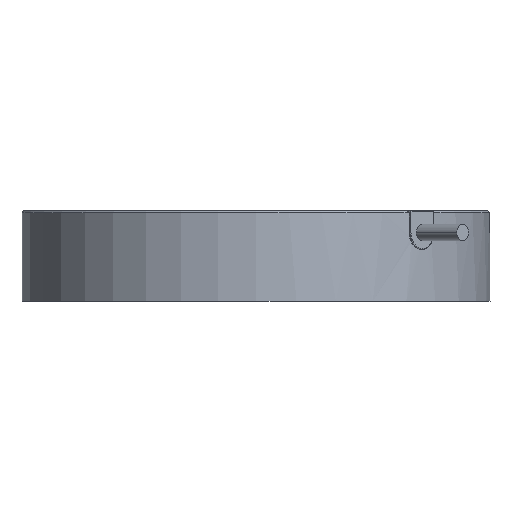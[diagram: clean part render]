
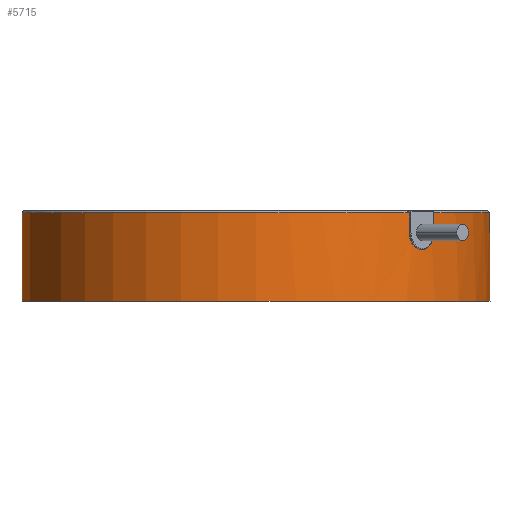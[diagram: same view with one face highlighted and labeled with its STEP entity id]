
A CAD part, front view. The second image highlights one B-rep face of the part: STEP entity #5715.
In plain terms, the highlighted cylindrical face has radius 70 mm (diameter 140 mm), a partial arc.
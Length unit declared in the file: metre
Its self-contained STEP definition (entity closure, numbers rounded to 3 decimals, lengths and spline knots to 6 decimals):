
#6=DIRECTION('',(0.,0.,-1.));
#7=VECTOR('',#6,0.005898);
#8=CARTESIAN_POINT('',(0.045835,-0.052906,0.002598));
#9=LINE('',#8,#7);
#10=DIRECTION('',(0.,0.,1.));
#11=VECTOR('',#10,0.005899);
#12=CARTESIAN_POINT('',(0.052907,-0.045836,-0.0033));
#13=LINE('',#12,#11);
#14=DIRECTION('',(0.,0.,-1.));
#15=VECTOR('',#14,0.001401);
#16=CARTESIAN_POINT('',(-0.036699,0.059609,
0.002601));
#17=LINE('',#16,#15);
#18=DIRECTION('',(0.,0.,-1.));
#19=VECTOR('',#18,0.025);
#20=CARTESIAN_POINT('',(-0.036699,0.059609,0.0012));
#21=LINE('',#20,#19);
#22=DIRECTION('',(0.,0.,1.));
#23=VECTOR('',#22,0.025);
#24=CARTESIAN_POINT('',(-0.059609,0.036699,-0.0238));
#25=LINE('',#24,#23);
#26=DIRECTION('',(-0.001,0.001,1.));
#27=VECTOR('',#26,0.0014);
#28=CARTESIAN_POINT('',(-0.059609,0.036699,0.0012));
#29=LINE('',#28,#27);
#35=CARTESIAN_POINT('',(-0.000002,0.000002,
0.002598));
#36=DIRECTION('',(0.,0.,-1.));
#37=DIRECTION('',(0.655,-0.756,0.));
#38=AXIS2_PLACEMENT_3D('',#35,#36,#37);
#40=CARTESIAN_POINT('',(-0.000002,0.000002,
0.0026));
#41=DIRECTION('',(0.,0.,-1.));
#42=DIRECTION('',(0.,-1.,0.));
#43=AXIS2_PLACEMENT_3D('',#40,#41,#42);
#586=CARTESIAN_POINT('',(0.,0.,-0.0238));
#587=DIRECTION('',(0.,0.,1.));
#588=DIRECTION('',(-0.852,0.524,0.));
#589=AXIS2_PLACEMENT_3D('',#586,#587,#588);
#591=CARTESIAN_POINT('',(0.,0.,-0.0238));
#592=DIRECTION('',(0.,0.,1.));
#593=DIRECTION('',(0.,-1.,0.));
#594=AXIS2_PLACEMENT_3D('',#591,#592,#593);
#596=CARTESIAN_POINT('',(0.,0.,-0.0238));
#597=DIRECTION('',(0.,0.,1.));
#598=DIRECTION('',(0.,1.,0.));
#599=AXIS2_PLACEMENT_3D('',#596,#597,#598);
#4283=CARTESIAN_POINT('',(-0.000002,0.000002,
0.002601));
#4284=DIRECTION('',(0.,0.,-1.));
#4285=DIRECTION('',(-0.524,0.852,0.));
#4286=AXIS2_PLACEMENT_3D('',#4283,#4284,#4285);
#4288=CARTESIAN_POINT('',(-0.000002,0.000002,
0.0026));
#4289=DIRECTION('',(0.,0.,-1.));
#4290=DIRECTION('',(0.,1.,0.));
#4291=AXIS2_PLACEMENT_3D('',#4288,#4289,#4290);
#4413=CARTESIAN_POINT('',(0.052907,-0.045836,-0.0033));
#4414=CARTESIAN_POINT('',(0.052907,-0.045836,
-0.003731));
#4415=CARTESIAN_POINT('',(0.052833,-0.04592,
-0.004596));
#4416=CARTESIAN_POINT('',(0.052502,-0.046299,
-0.005818));
#4417=CARTESIAN_POINT('',(0.051969,-0.046899,
-0.006868));
#4418=CARTESIAN_POINT('',(0.05126,-0.047675,
-0.007677));
#4419=CARTESIAN_POINT('',(0.050421,-0.048562,
-0.008184));
#4420=CARTESIAN_POINT('',(0.049504,-0.049497,
-0.008357));
#4421=CARTESIAN_POINT('',(0.048569,-0.050414,
-0.008186));
#4422=CARTESIAN_POINT('',(0.047682,-0.051253,
-0.007682));
#4423=CARTESIAN_POINT('',(0.046906,-0.051962,
-0.006877));
#4424=CARTESIAN_POINT('',(0.046303,-0.052499,
-0.005827));
#4425=CARTESIAN_POINT('',(0.045921,-0.052833,
-0.0046));
#4426=CARTESIAN_POINT('',(0.045836,-0.052907,
-0.003732));
#4427=CARTESIAN_POINT('',(0.045836,-0.052907,-0.0033));
#4586=CARTESIAN_POINT('',(0.,0.07,-0.0238));
#4587=CARTESIAN_POINT('',(-0.036699,0.059609,-0.0238));
#4588=VERTEX_POINT('',#4586);
#4589=VERTEX_POINT('',#4587);
#4590=CARTESIAN_POINT('',(0.,-0.07,-0.0238));
#4591=VERTEX_POINT('',#4590);
#4592=CARTESIAN_POINT('',(-0.059609,0.036699,-0.0238));
#4593=VERTEX_POINT('',#4592);
#4901=CARTESIAN_POINT('',(0.052907,-0.045836,-0.0033));
#4902=CARTESIAN_POINT('',(0.052906,-0.045835,
0.002599));
#4903=VERTEX_POINT('',#4901);
#4904=VERTEX_POINT('',#4902);
#4917=CARTESIAN_POINT('',(0.045835,-0.052906,
0.002598));
#4918=CARTESIAN_POINT('',(0.045836,-0.052907,-0.0033));
#4919=VERTEX_POINT('',#4917);
#4920=VERTEX_POINT('',#4918);
#4921=CARTESIAN_POINT('',(-0.000001,0.070003,
0.0026));
#4922=VERTEX_POINT('',#4921);
#4923=CARTESIAN_POINT('',(-0.036699,0.05961,
0.002601));
#4924=VERTEX_POINT('',#4923);
#4925=CARTESIAN_POINT('',(-0.036699,0.059609,0.0012));
#4926=VERTEX_POINT('',#4925);
#4927=CARTESIAN_POINT('',(-0.059609,0.036699,0.0012));
#4928=VERTEX_POINT('',#4927);
#4929=CARTESIAN_POINT('',(-0.05961,0.0367,
0.0026));
#4930=VERTEX_POINT('',#4929);
#4931=CARTESIAN_POINT('',(-0.000001,-0.069998,
0.0026));
#4932=VERTEX_POINT('',#4931);
#5681=CARTESIAN_POINT('',(0.,0.,0.00119));
#5682=DIRECTION('',(0.,0.,-1.));
#5683=DIRECTION('',(0.,-1.,0.));
#5684=AXIS2_PLACEMENT_3D('',#5681,#5682,#5683);
#5685=CYLINDRICAL_SURFACE('',#5684,0.07);
#5687=ORIENTED_EDGE('',*,*,#5686,.T.);
#5689=ORIENTED_EDGE('',*,*,#5688,.F.);
#5690=ORIENTED_EDGE('',*,*,#5668,.T.);
#5692=ORIENTED_EDGE('',*,*,#5691,.F.);
#5694=ORIENTED_EDGE('',*,*,#5693,.F.);
#5696=ORIENTED_EDGE('',*,*,#5695,.T.);
#5698=ORIENTED_EDGE('',*,*,#5697,.T.);
#5700=ORIENTED_EDGE('',*,*,#5699,.F.);
#5702=ORIENTED_EDGE('',*,*,#5701,.F.);
#5704=ORIENTED_EDGE('',*,*,#5703,.F.);
#5706=ORIENTED_EDGE('',*,*,#5705,.T.);
#5708=ORIENTED_EDGE('',*,*,#5707,.T.);
#5710=ORIENTED_EDGE('',*,*,#5709,.F.);
#5712=ORIENTED_EDGE('',*,*,#5711,.F.);
#5713=EDGE_LOOP('',(#5687,#5689,#5690,#5692,#5694,#5696,#5698,#5700,#5702,#5704,
#5706,#5708,#5710,#5712));
#5714=FACE_OUTER_BOUND('',#5713,.F.);
#5715=ADVANCED_FACE('',(#5714),#5685,.T.);
#39=CIRCLE('',#38,0.070002);
#44=CIRCLE('',#43,0.07);
#590=CIRCLE('',#589,0.07);
#595=CIRCLE('',#594,0.07);
#600=CIRCLE('',#599,0.07);
#4287=CIRCLE('',#4286,0.069999);
#4292=CIRCLE('',#4291,0.07);
#4428=B_SPLINE_CURVE_WITH_KNOTS('',3,(#4413,#4414,#4415,#4416,#4417,#4418,#4419,
#4420,#4421,#4422,#4423,#4424,#4425,#4426,#4427),.UNSPECIFIED.,.F.,.F.,(4,1,1,1,
1,1,1,1,1,1,1,1,4),(0.,0.083333,0.166667,0.25,
0.333333,0.416667,0.5,0.583333,0.666667,
0.75,0.833333,0.916667,1.),.UNSPECIFIED.);
#5668=EDGE_CURVE('',#4903,#4904,#13,.T.);
#5686=EDGE_CURVE('',#4919,#4920,#9,.T.);
#5688=EDGE_CURVE('',#4903,#4920,#4428,.T.);
#5691=EDGE_CURVE('',#4922,#4904,#4292,.T.);
#5693=EDGE_CURVE('',#4924,#4922,#4287,.T.);
#5695=EDGE_CURVE('',#4924,#4926,#17,.T.);
#5697=EDGE_CURVE('',#4926,#4589,#21,.T.);
#5699=EDGE_CURVE('',#4588,#4589,#600,.T.);
#5701=EDGE_CURVE('',#4591,#4588,#595,.T.);
#5703=EDGE_CURVE('',#4593,#4591,#590,.T.);
#5705=EDGE_CURVE('',#4593,#4928,#25,.T.);
#5707=EDGE_CURVE('',#4928,#4930,#29,.T.);
#5709=EDGE_CURVE('',#4932,#4930,#44,.T.);
#5711=EDGE_CURVE('',#4919,#4932,#39,.T.);
